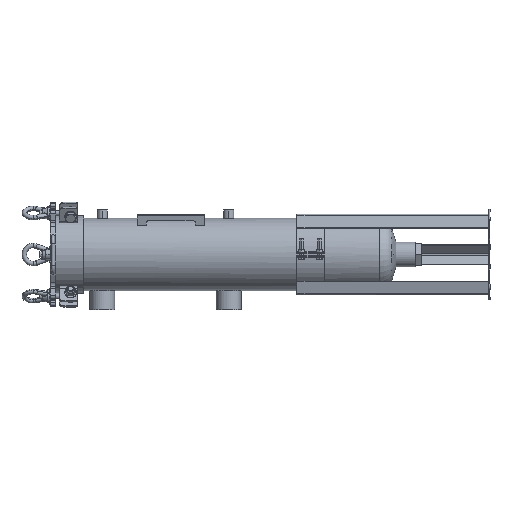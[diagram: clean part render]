
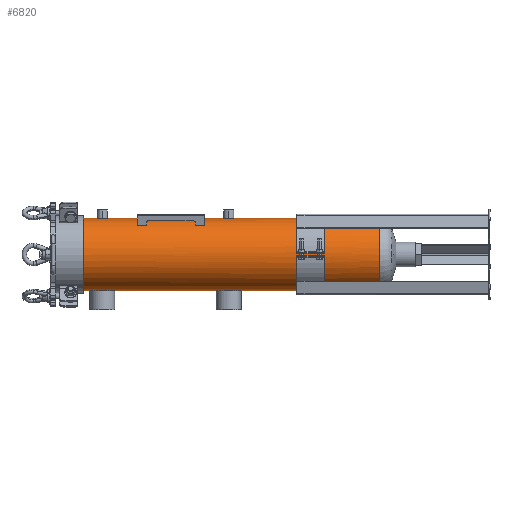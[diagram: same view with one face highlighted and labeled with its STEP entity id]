
A CAD part, left-side view. The second image highlights one B-rep face of the part: STEP entity #6820.
In plain terms, the highlighted cylindrical face has radius 101.6 mm (diameter 203.2 mm), a partial arc.
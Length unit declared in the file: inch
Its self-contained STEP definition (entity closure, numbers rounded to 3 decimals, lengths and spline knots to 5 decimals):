
#20 = ORIENTED_EDGE ( 'NONE', *, *, #1078, .F. ) ;
#115 = EDGE_LOOP ( 'NONE', ( #19326, #10810, #6459, #16504, #14843, #4091, #16177, #2921, #20, #13676, #25585, #6745 ) ) ;
#413 = CARTESIAN_POINT ( 'NONE',  ( -3.99265, -8., -0.24242 ) ) ;
#442 = AXIS2_PLACEMENT_3D ( 'NONE', #10017, #2242, #8297 ) ;
#469 = DIRECTION ( 'NONE',  ( 0., -1., 0. ) ) ;
#836 = VERTEX_POINT ( 'NONE', #6714 ) ;
#928 = EDGE_CURVE ( 'NONE', #11658, #836, #22480, .T. ) ;
#1008 = CARTESIAN_POINT ( 'NONE',  ( 0., -17.09375, 0. ) ) ;
#1078 = EDGE_CURVE ( 'NONE', #20406, #11882, #10487, .T. ) ;
#1174 = LINE ( 'NONE', #23315, #2564 ) ;
#1904 = CIRCLE ( 'NONE', #9493, 4. ) ;
#2192 = DIRECTION ( 'NONE',  ( 0., -1., 0. ) ) ;
#2242 = DIRECTION ( 'NONE',  ( 0., -1., 0. ) ) ;
#2564 = VECTOR ( 'NONE', #12781, 39.37008 ) ;
#2684 = EDGE_CURVE ( 'NONE', #836, #4864, #21898, .T. ) ;
#2906 = VERTEX_POINT ( 'NONE', #15321 ) ;
#2921 = ORIENTED_EDGE ( 'NONE', *, *, #5117, .T. ) ;
#4046 = CARTESIAN_POINT ( 'NONE',  ( 0., -17.09375, 4. ) ) ;
#4091 = ORIENTED_EDGE ( 'NONE', *, *, #10374, .T. ) ;
#4151 = DIRECTION ( 'NONE',  ( 0., -1., 0. ) ) ;
#4781 = CARTESIAN_POINT ( 'NONE',  ( 0., -17.09375, -4. ) ) ;
#4840 = DIRECTION ( 'NONE',  ( 0., 1., 0. ) ) ;
#4864 = VERTEX_POINT ( 'NONE', #5252 ) ;
#4918 = CIRCLE ( 'NONE', #7854, 4. ) ;
#5117 = EDGE_CURVE ( 'NONE', #17346, #11882, #1904, .T. ) ;
#5252 = CARTESIAN_POINT ( 'NONE',  ( -3.99265, -11., 0.24242 ) ) ;
#5324 = CARTESIAN_POINT ( 'NONE',  ( 0., -8., -4. ) ) ;
#5438 = CARTESIAN_POINT ( 'NONE',  ( -3.99265, -8., 0.24242 ) ) ;
#5506 = CARTESIAN_POINT ( 'NONE',  ( 0., -8., 0. ) ) ;
#5594 = EDGE_CURVE ( 'NONE', #24356, #11450, #15843, .T. ) ;
#6459 = ORIENTED_EDGE ( 'NONE', *, *, #5594, .T. ) ;
#6714 = CARTESIAN_POINT ( 'NONE',  ( -3.99265, -8., 0.24242 ) ) ;
#6745 = ORIENTED_EDGE ( 'NONE', *, *, #928, .F. ) ;
#6820 = ADVANCED_FACE ( 'NONE', ( #24067 ), #22083, .T. ) ;
#6984 = CARTESIAN_POINT ( 'NONE',  ( 0., -8., 4. ) ) ;
#7210 = VECTOR ( 'NONE', #18078, 39.37008 ) ;
#7854 = AXIS2_PLACEMENT_3D ( 'NONE', #17228, #17097, #9329 ) ;
#7994 = CARTESIAN_POINT ( 'NONE',  ( 0., 17.09375, 0. ) ) ;
#8297 = DIRECTION ( 'NONE',  ( 0., 0., 1. ) ) ;
#8730 = AXIS2_PLACEMENT_3D ( 'NONE', #14658, #16756, #22694 ) ;
#8915 = DIRECTION ( 'NONE',  ( 0., 0., 1. ) ) ;
#9163 = DIRECTION ( 'NONE',  ( 0., -1., 0. ) ) ;
#9329 = DIRECTION ( 'NONE',  ( 0., 0., 1. ) ) ;
#9426 = CARTESIAN_POINT ( 'NONE',  ( 0., 17.09375, -4. ) ) ;
#9493 = AXIS2_PLACEMENT_3D ( 'NONE', #1008, #4840, #8915 ) ;
#10017 = CARTESIAN_POINT ( 'NONE',  ( 0., -11., 0. ) ) ;
#10046 = CARTESIAN_POINT ( 'NONE',  ( 0., 17.09375, -4. ) ) ;
#10374 = EDGE_CURVE ( 'NONE', #2906, #18565, #12664, .T. ) ;
#10487 = LINE ( 'NONE', #18522, #24551 ) ;
#10550 = EDGE_CURVE ( 'NONE', #17367, #2906, #1174, .T. ) ;
#10810 = ORIENTED_EDGE ( 'NONE', *, *, #17439, .F. ) ;
#11248 = CARTESIAN_POINT ( 'NONE',  ( 0., -11., -4. ) ) ;
#11450 = VERTEX_POINT ( 'NONE', #5324 ) ;
#11658 = VERTEX_POINT ( 'NONE', #6984 ) ;
#11685 = DIRECTION ( 'NONE',  ( 0., 0., -1. ) ) ;
#11882 = VERTEX_POINT ( 'NONE', #4046 ) ;
#12061 = VECTOR ( 'NONE', #25586, 39.37008 ) ;
#12610 = EDGE_CURVE ( 'NONE', #20173, #11658, #19935, .T. ) ;
#12664 = CIRCLE ( 'NONE', #442, 4. ) ;
#12781 = DIRECTION ( 'NONE',  ( 0., -1., 0. ) ) ;
#13450 = CARTESIAN_POINT ( 'NONE',  ( 0., 15.6875, -4. ) ) ;
#13676 = ORIENTED_EDGE ( 'NONE', *, *, #16801, .T. ) ;
#14658 = CARTESIAN_POINT ( 'NONE',  ( 0., 15.6875, 0. ) ) ;
#14843 = ORIENTED_EDGE ( 'NONE', *, *, #10550, .T. ) ;
#15321 = CARTESIAN_POINT ( 'NONE',  ( -3.99265, -11., -0.24242 ) ) ;
#15745 = VECTOR ( 'NONE', #24283, 39.37008 ) ;
#15766 = DIRECTION ( 'NONE',  ( 0., -1., 0. ) ) ;
#15843 = LINE ( 'NONE', #10046, #7210 ) ;
#16177 = ORIENTED_EDGE ( 'NONE', *, *, #23988, .T. ) ;
#16504 = ORIENTED_EDGE ( 'NONE', *, *, #19525, .F. ) ;
#16719 = CIRCLE ( 'NONE', #8730, 4. ) ;
#16756 = DIRECTION ( 'NONE',  ( 0., 1., 0. ) ) ;
#16801 = EDGE_CURVE ( 'NONE', #20406, #4864, #4918, .T. ) ;
#16813 = CARTESIAN_POINT ( 'NONE',  ( 0., -11., 4. ) ) ;
#16865 = CIRCLE ( 'NONE', #21076, 4. ) ;
#17097 = DIRECTION ( 'NONE',  ( 0., -1., 0. ) ) ;
#17228 = CARTESIAN_POINT ( 'NONE',  ( 0., -11., 0. ) ) ;
#17346 = VERTEX_POINT ( 'NONE', #4781 ) ;
#17367 = VERTEX_POINT ( 'NONE', #413 ) ;
#17439 = EDGE_CURVE ( 'NONE', #24356, #20173, #16719, .T. ) ;
#17741 = DIRECTION ( 'NONE',  ( 0., 0., 1. ) ) ;
#17821 = VECTOR ( 'NONE', #9163, 39.37008 ) ;
#18078 = DIRECTION ( 'NONE',  ( 0., -1., 0. ) ) ;
#18511 = CARTESIAN_POINT ( 'NONE',  ( 0., -8., 0. ) ) ;
#18522 = CARTESIAN_POINT ( 'NONE',  ( 0., 17.09375, 4. ) ) ;
#18565 = VERTEX_POINT ( 'NONE', #11248 ) ;
#19174 = LINE ( 'NONE', #9426, #17821 ) ;
#19326 = ORIENTED_EDGE ( 'NONE', *, *, #12610, .F. ) ;
#19525 = EDGE_CURVE ( 'NONE', #17367, #11450, #16865, .T. ) ;
#19935 = LINE ( 'NONE', #22437, #15745 ) ;
#20173 = VERTEX_POINT ( 'NONE', #26045 ) ;
#20406 = VERTEX_POINT ( 'NONE', #16813 ) ;
#21076 = AXIS2_PLACEMENT_3D ( 'NONE', #18511, #4151, #24582 ) ;
#21796 = AXIS2_PLACEMENT_3D ( 'NONE', #7994, #2192, #11685 ) ;
#21898 = LINE ( 'NONE', #5438, #12061 ) ;
#22083 = CYLINDRICAL_SURFACE ( 'NONE', #21796, 4. ) ;
#22437 = CARTESIAN_POINT ( 'NONE',  ( 0., 17.09375, 4. ) ) ;
#22480 = CIRCLE ( 'NONE', #24593, 4. ) ;
#22694 = DIRECTION ( 'NONE',  ( 0., 0., 1. ) ) ;
#23315 = CARTESIAN_POINT ( 'NONE',  ( -3.99265, -8., -0.24242 ) ) ;
#23988 = EDGE_CURVE ( 'NONE', #18565, #17346, #19174, .T. ) ;
#24067 = FACE_OUTER_BOUND ( 'NONE', #115, .T. ) ;
#24283 = DIRECTION ( 'NONE',  ( 0., -1., 0. ) ) ;
#24356 = VERTEX_POINT ( 'NONE', #13450 ) ;
#24551 = VECTOR ( 'NONE', #469, 39.37008 ) ;
#24582 = DIRECTION ( 'NONE',  ( 0., 0., 1. ) ) ;
#24593 = AXIS2_PLACEMENT_3D ( 'NONE', #5506, #15766, #17741 ) ;
#25585 = ORIENTED_EDGE ( 'NONE', *, *, #2684, .F. ) ;
#25586 = DIRECTION ( 'NONE',  ( 0., -1., 0. ) ) ;
#26045 = CARTESIAN_POINT ( 'NONE',  ( 0., 15.6875, 4. ) ) ;
